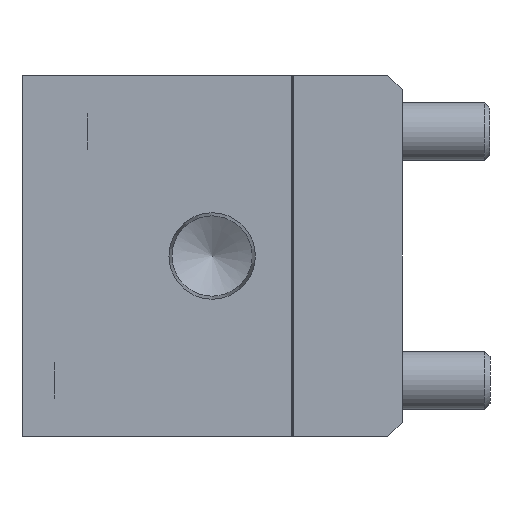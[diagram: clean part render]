
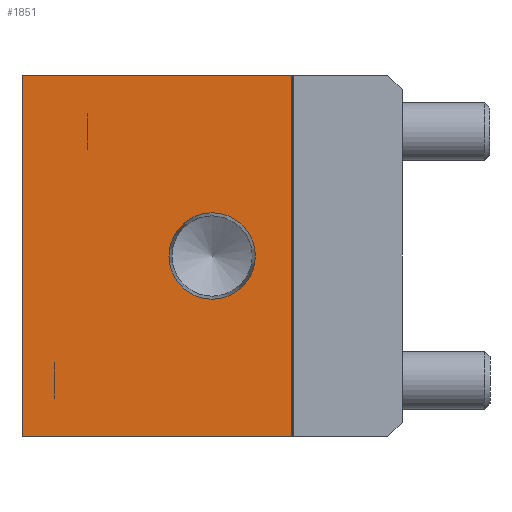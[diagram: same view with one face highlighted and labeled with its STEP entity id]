
A CAD part, left-side view. The second image highlights one B-rep face of the part: STEP entity #1851.
In plain terms, the highlighted planar face has unit normal (-1, 0, 0).
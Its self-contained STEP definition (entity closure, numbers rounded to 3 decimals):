
#1851 = ADVANCED_FACE( '', ( #4034, #4035 ), #4036, .F. );
#4034 = FACE_BOUND( '', #6515, .T. );
#4035 = FACE_OUTER_BOUND( '', #6516, .T. );
#4036 = PLANE( '', #6517 );
#6515 = EDGE_LOOP( '', ( #10939 ) );
#6516 = EDGE_LOOP( '', ( #10940, #10941, #10942, #10943 ) );
#6517 = AXIS2_PLACEMENT_3D( '', #10944, #10945, #10946 );
#10939 = ORIENTED_EDGE( '', *, *, #13406, .T. );
#10940 = ORIENTED_EDGE( '', *, *, #14623, .F. );
#10941 = ORIENTED_EDGE( '', *, *, #13677, .F. );
#10942 = ORIENTED_EDGE( '', *, *, #14624, .T. );
#10943 = ORIENTED_EDGE( '', *, *, #13494, .T. );
#10944 = CARTESIAN_POINT( '', ( 0., 52., 24.75 ) );
#10945 = DIRECTION( '', ( 1., 0., 0. ) );
#10946 = DIRECTION( '', ( 0., 0., -1. ) );
#13406 = EDGE_CURVE( '', #15772, #15772, #15773, .T. );
#13494 = EDGE_CURVE( '', #15917, #15921, #15923, .T. );
#13677 = EDGE_CURVE( '', #16211, #16213, #16214, .T. );
#14623 = EDGE_CURVE( '', #16213, #15921, #17516, .T. );
#14624 = EDGE_CURVE( '', #16211, #15917, #17517, .T. );
#15772 = VERTEX_POINT( '', #18931 );
#15773 = CIRCLE( '', #18932, 5.91 );
#15917 = VERTEX_POINT( '', #19121 );
#15921 = VERTEX_POINT( '', #19127 );
#15923 = LINE( '', #19130, #19131 );
#16211 = VERTEX_POINT( '', #19512 );
#16213 = VERTEX_POINT( '', #19515 );
#16214 = LINE( '', #19516, #19517 );
#17516 = LINE( '', #21222, #21223 );
#17517 = LINE( '', #21224, #21225 );
#18931 = CARTESIAN_POINT( '', ( 0., 26., -5.91 ) );
#18932 = AXIS2_PLACEMENT_3D( '', #22360, #22361, #22362 );
#19121 = CARTESIAN_POINT( '', ( 0., 52., -24.75 ) );
#19127 = CARTESIAN_POINT( '', ( 0., 15.1, -24.75 ) );
#19130 = CARTESIAN_POINT( '', ( 0., 52., -24.75 ) );
#19131 = VECTOR( '', #22465, 1000. );
#19512 = CARTESIAN_POINT( '', ( 0., 52., 24.75 ) );
#19515 = CARTESIAN_POINT( '', ( 0., 15.1, 24.75 ) );
#19516 = CARTESIAN_POINT( '', ( 0., 52., 24.75 ) );
#19517 = VECTOR( '', #22680, 1000. );
#21222 = CARTESIAN_POINT( '', ( 0., 15.1, 24.75 ) );
#21223 = VECTOR( '', #23786, 1000. );
#21224 = CARTESIAN_POINT( '', ( 0., 52., 24.75 ) );
#21225 = VECTOR( '', #23787, 1000. );
#22360 = CARTESIAN_POINT( '', ( 0., 26., 0. ) );
#22361 = DIRECTION( '', ( 1., 0., 0. ) );
#22362 = DIRECTION( '', ( 0., 0., -1. ) );
#22465 = DIRECTION( '', ( 0., -1., 0. ) );
#22680 = DIRECTION( '', ( 0., -1., 0. ) );
#23786 = DIRECTION( '', ( 0., 0., -1. ) );
#23787 = DIRECTION( '', ( 0., 0., -1. ) );
